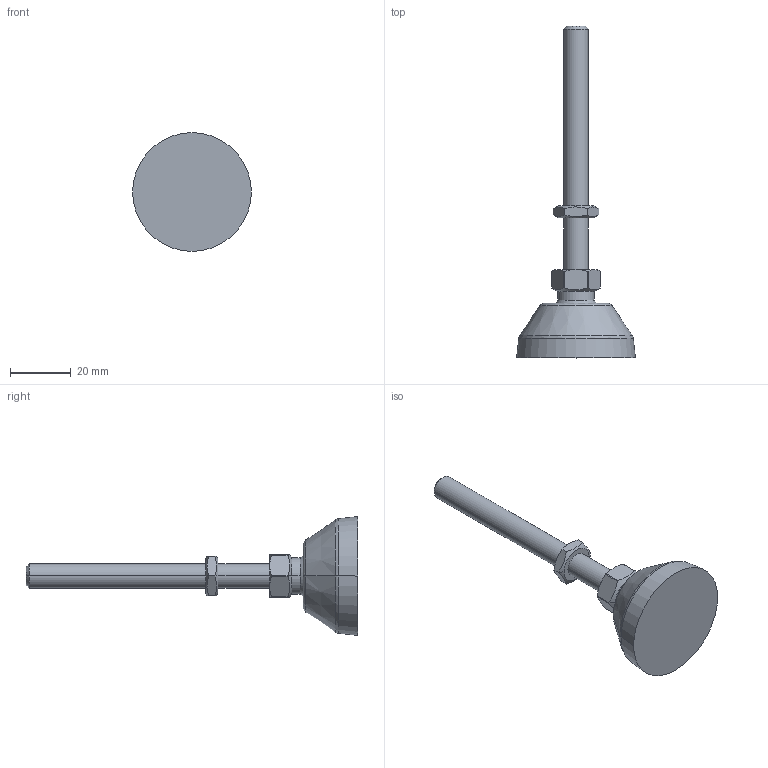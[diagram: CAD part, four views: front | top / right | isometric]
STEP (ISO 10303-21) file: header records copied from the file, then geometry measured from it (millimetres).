
FILE_DESCRIPTION (( 'STEP AP203' ), '1' );
FILE_NAME ('30024_STE40M8110.STEP', '2018-03-20T07:47:31', ( '' ), ( '' ), 'SwSTEP 2.0', 'SolidWorks 2017', '' );
FILE_SCHEMA (( 'CONFIG_CONTROL_DESIGN' ));
Length unit declared in the file: millimetre
Products named in the file (1): 30024_STE40M8110
Bounding box: 39 x 109 x 39 mm (x, y, z)
Volume: 21927.4 mm3; surface area: 6805.3 mm2
Topology: 1 solids, 1 shells, 72 faces, 162 edges, 97 vertices
Faces by surface type: plane 24, cone 19, cylinder 15, bspline 14
Entity records: 2681 total; most frequent: CARTESIAN_POINT 1100, ORIENTED_EDGE 324, DIRECTION 302, EDGE_CURVE 162, AXIS2_PLACEMENT_3D 131, VERTEX_POINT 97, EDGE_LOOP 77, CIRCLE 72
